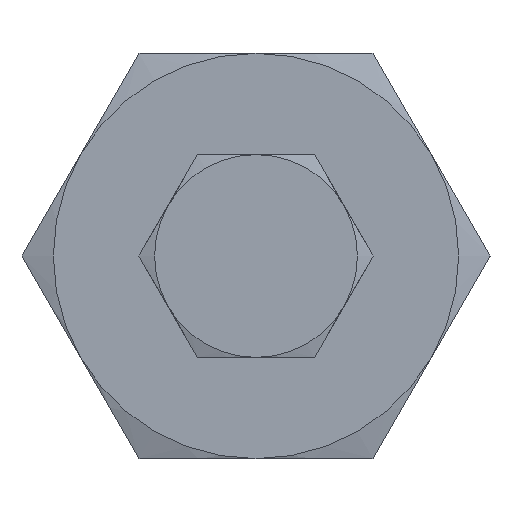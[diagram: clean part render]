
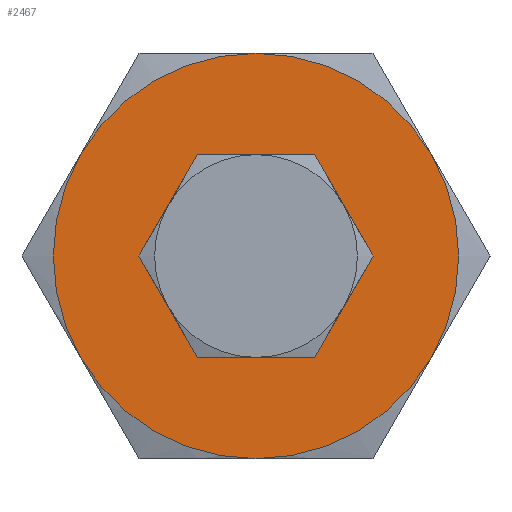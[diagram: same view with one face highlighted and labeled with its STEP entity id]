
A CAD part, left-side view. The second image highlights one B-rep face of the part: STEP entity #2467.
In plain terms, the highlighted planar face has unit normal (-1, 0, 0).
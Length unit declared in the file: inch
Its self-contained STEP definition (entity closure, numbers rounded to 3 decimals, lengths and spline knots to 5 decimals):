
#1451=CARTESIAN_POINT('',(-0.937,0.0,0.2195));
#1452=VERTEX_POINT('',#1451);
#1468=CARTESIAN_POINT('',(-0.937,0.,-0.2195));
#1469=VERTEX_POINT('',#1468);
#1476=CARTESIAN_POINT('',(-0.937,0.0,0.));
#1477=DIRECTION('',(1.0,0.0,0.0));
#1478=DIRECTION('',(0.0,0.0,1.0));
#1479=AXIS2_PLACEMENT_3D('',#1476,#1477,#1478);
#1480=CIRCLE('',#1479,0.2195);
#1481=EDGE_CURVE('',#1452,#1469,#1480,.T.);
#1780=CARTESIAN_POINT('',(-0.937,0.0,0.));
#1781=DIRECTION('',(1.0,0.0,0.0));
#1782=DIRECTION('',(0.0,0.0,1.0));
#1783=AXIS2_PLACEMENT_3D('',#1780,#1781,#1782);
#1784=CIRCLE('',#1783,0.2195);
#1785=EDGE_CURVE('',#1469,#1452,#1784,.T.);
#2073=CARTESIAN_POINT('',(-0.937,0.37889,0.21875));
#2074=VERTEX_POINT('',#2073);
#2088=CARTESIAN_POINT('',(-0.937,0.37889,-0.21875));
#2089=VERTEX_POINT('',#2088);
#2103=CARTESIAN_POINT('',(-0.937,0.0,0.));
#2104=DIRECTION('',(-1.0,0.0,0.0));
#2105=DIRECTION('',(0.0,0.0,1.0));
#2106=AXIS2_PLACEMENT_3D('',#2103,#2104,#2105);
#2107=CIRCLE('',#2106,0.4375);
#2108=EDGE_CURVE('',#2074,#2089,#2107,.T.);
#2120=CARTESIAN_POINT('',(-0.937,0.0,0.4375));
#2121=VERTEX_POINT('',#2120);
#2148=CARTESIAN_POINT('',(-0.937,0.0,0.));
#2149=DIRECTION('',(-1.0,0.0,0.0));
#2150=DIRECTION('',(0.0,0.0,1.0));
#2151=AXIS2_PLACEMENT_3D('',#2148,#2149,#2150);
#2152=CIRCLE('',#2151,0.4375);
#2153=EDGE_CURVE('',#2121,#2074,#2152,.T.);
#2165=CARTESIAN_POINT('',(-0.937,-0.37889,0.21875));
#2166=VERTEX_POINT('',#2165);
#2193=CARTESIAN_POINT('',(-0.937,0.0,0.));
#2194=DIRECTION('',(-1.0,0.0,0.0));
#2195=DIRECTION('',(0.0,0.0,1.0));
#2196=AXIS2_PLACEMENT_3D('',#2193,#2194,#2195);
#2197=CIRCLE('',#2196,0.4375);
#2198=EDGE_CURVE('',#2166,#2121,#2197,.T.);
#2223=CARTESIAN_POINT('',(-0.937,-0.37889,-0.21875));
#2224=VERTEX_POINT('',#2223);
#2225=CARTESIAN_POINT('',(-0.937,0.0,0.));
#2226=DIRECTION('',(-1.0,0.0,0.0));
#2227=DIRECTION('',(0.0,0.0,1.0));
#2228=AXIS2_PLACEMENT_3D('',#2225,#2226,#2227);
#2229=CIRCLE('',#2228,0.4375);
#2230=EDGE_CURVE('',#2224,#2166,#2229,.T.);
#2268=CARTESIAN_POINT('',(-0.937,0.0,-0.4375));
#2269=VERTEX_POINT('',#2268);
#2270=CARTESIAN_POINT('',(-0.937,0.0,0.));
#2271=DIRECTION('',(-1.0,0.0,0.0));
#2272=DIRECTION('',(0.0,0.0,1.0));
#2273=AXIS2_PLACEMENT_3D('',#2270,#2271,#2272);
#2274=CIRCLE('',#2273,0.4375);
#2275=EDGE_CURVE('',#2269,#2224,#2274,.T.);
#2313=CARTESIAN_POINT('',(-0.937,0.0,0.));
#2314=DIRECTION('',(-1.0,0.0,0.0));
#2315=DIRECTION('',(0.0,0.0,1.0));
#2316=AXIS2_PLACEMENT_3D('',#2313,#2314,#2315);
#2317=CIRCLE('',#2316,0.4375);
#2318=EDGE_CURVE('',#2089,#2269,#2317,.T.);
#2450=CARTESIAN_POINT('',(-0.937,0.0,0.));
#2451=DIRECTION('',(-1.0,0.0,0.0));
#2452=DIRECTION('',(0.0,0.0,1.0));
#2453=AXIS2_PLACEMENT_3D('',#2450,#2451,#2452);
#2454=PLANE('',#2453);
#2455=ORIENTED_EDGE('',*,*,#2318,.T.);
#2456=ORIENTED_EDGE('',*,*,#2275,.T.);
#2457=ORIENTED_EDGE('',*,*,#2230,.T.);
#2458=ORIENTED_EDGE('',*,*,#2198,.T.);
#2459=ORIENTED_EDGE('',*,*,#2153,.T.);
#2460=ORIENTED_EDGE('',*,*,#2108,.T.);
#2461=EDGE_LOOP('',(#2455,#2456,#2457,#2458,#2459,#2460));
#2462=FACE_OUTER_BOUND('',#2461,.T.);
#2463=ORIENTED_EDGE('',*,*,#1481,.T.);
#2464=ORIENTED_EDGE('',*,*,#1785,.T.);
#2465=EDGE_LOOP('',(#2463,#2464));
#2466=FACE_BOUND('',#2465,.T.);
#2467=ADVANCED_FACE('',(#2462,#2466),#2454,.T.);
